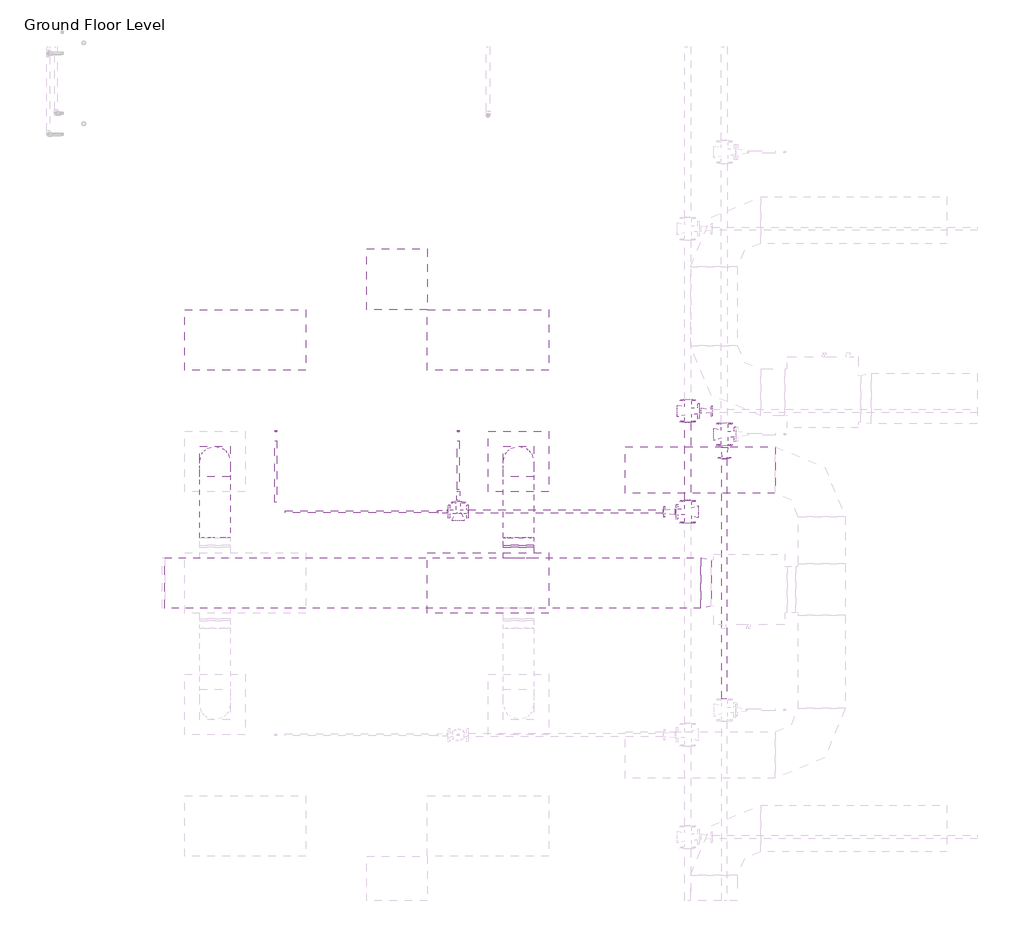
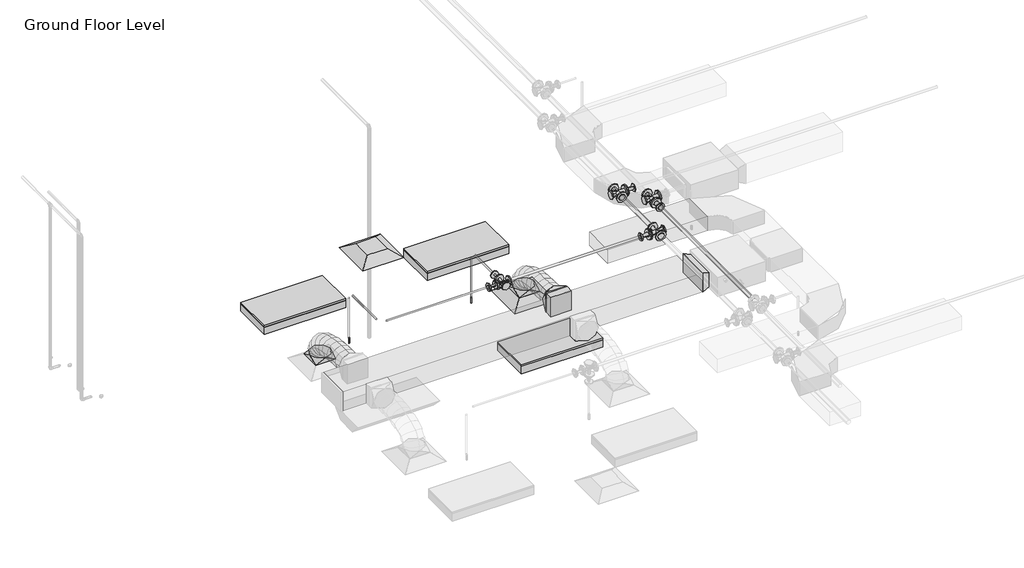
# One storey, part 58 of 68: 9 pipe fittings, 8 pipe segments, 5 duct fittings, 5 duct segments, 3 light fixtures, 2 air terminals, 2 fire suppression terminals.
"""IFC4 building model written with IfcOpenShell, lengths in millimetres."""

from ifc_helpers import new_model, si_unit, point, frame, frame_2d, origin, place, context, project, spatial, polyline, circle_curve, ellipse_curve, trimmed, segment, composite_curve, outline, extrude, transform, mapped, element, save
from ifc_brep_helpers import plane_surface, cylinder_surface, advanced_brep
from components import m_return_diffuser_600_x_600_face_300_x_300_connection_ff221211, m_rectangular_takeoff_standard_2be5eba1, m_rectangular_transition_angle_45_degree_2b595dfe, m_rectangular_to_round_transition_angle_45_degree_641efff0, m_sprinkler_dry_pendent_hosted_15_mm_dry_pendent_9bda8e11, m_troffer_light_parabolic_rectangular1_0600x1200mm_4_lamp_86473d4a, m_reducer_flanged_cs_class_150_standard_ccf252ad, m_reducer_flanged_cs_class_150_standard_3ab32b2b, m_reducer_flanged_cs_class_150_standard_a7631c35, m_tee_round_base_flanged_cs_class_150_standard_dd767e04, m_tee_round_base_flanged_cs_class_150_standard_7e5987a1

model = new_model("IFC4")

# Units and contexts
model_context = context("Model", 3, world=origin())
ifc_project = project(units=[si_unit("LENGTHUNIT", "METRE", prefix="MILLI")], contexts=[model_context])

# Site, building, storey
site = spatial("IfcSite", under=ifc_project)
building = spatial("IfcBuilding", under=site)
storey = spatial("IfcBuildingStorey", under=building, Name="Ground Floor Level", Elevation=900.0)

# Air terminals
placement = place(None, origin())
m_return_diffuser_600_x_600_face_300_x_300_connection_shape = m_return_diffuser_600_x_600_face_300_x_300_connection_ff221211(model_context)
element("IfcAirTerminal", 1, ObjectType="M_Return Diffuser : 600 x 600 Face 300 x 300 Connection", at=placement, inside=storey, context=model_context, shape_type="MappedRepresentation", body=[
    mapped(m_return_diffuser_600_x_600_face_300_x_300_connection_shape, transform((2762.7672395, 7135.2153534, 3650.0), x_axis=(1.0, 0.0, 0.0), y_axis=(0.0, 1.0, 0.0), z_axis=(0.0, 0.0, 1.0))),
])
element("IfcAirTerminal", 2, ObjectType="M_Supply Diffuser : 600 x 600 Face 300 x 300 Connection", at=placement, inside=storey, context=model_context, shape_type="MappedRepresentation", body=[
    mapped(m_return_diffuser_600_x_600_face_300_x_300_connection_shape, transform((3962.7672395, 5335.2153534, 3650.0), x_axis=(1.0, 0.0, 0.0), y_axis=(0.0, 1.0, 0.0), z_axis=(0.0, 0.0, 1.0))),
])

# Duct fittings
m_rectangular_takeoff_standard_shape = m_rectangular_takeoff_standard_2be5eba1(model_context)
element("IfcDuctFitting", 3, ObjectType="M_Rectangular Takeoff : Standard", at=placement, inside=storey, context=model_context, shape_type="MappedRepresentation", body=[
    mapped(m_rectangular_takeoff_standard_shape, transform((3962.7672395, 4385.0199167, 4099.9957478), x_axis=(0.0, 1.0, 0.0), y_axis=(1.0, 0.0, 0.0), z_axis=(0.0, 0.0, -1.0))),
])
m_rectangular_transition_angle_45_degree_shape = m_rectangular_transition_angle_45_degree_2b595dfe(model_context)
element("IfcDuctFitting", 4, ObjectType="M_Rectangular Transition - Angle : 45 Degree", at=placement, inside=storey, context=model_context, shape_type="MappedRepresentation", body=[
    mapped(m_rectangular_transition_angle_45_degree_shape, transform((5868.0139492, 4135.0199167, 4100.0), x_axis=(-1.0, 0.0, 0.0), y_axis=(0.0, -1.0, 0.0), z_axis=(0.0, 0.0, 1.0))),
])
m_rectangular_to_round_transition_angle_45_degree_shape = m_rectangular_to_round_transition_angle_45_degree_641efff0(model_context)
element("IfcDuctFitting", 5, ObjectType="M_Rectangular to Round Transition - Angle : 45 Degree", at=placement, inside=storey, context=model_context, shape_type="MappedRepresentation", body=[
    mapped(m_rectangular_to_round_transition_angle_45_degree_shape, transform((962.7672395, 5335.2153534, 3751.6), x_axis=(0.0, 0.0, 1.0), y_axis=(-1.0, 0.0, 0.0), z_axis=(0.0, -1.0, 0.0))),
])
element("IfcDuctFitting", 6, ObjectType="M_Rectangular to Round Transition - Angle : 45 Degree", at=placement, inside=storey, context=model_context, shape_type="MappedRepresentation", body=[
    mapped(m_rectangular_to_round_transition_angle_45_degree_shape, transform((3962.7672395, 5335.2153534, 3751.6), x_axis=(0.0, 0.0, 1.0), y_axis=(-1.0, 0.0, 0.0), z_axis=(0.0, -1.0, 0.0))),
])
element("IfcDuctFitting", 7, ObjectType="M_Rectangular to Round Transition - Angle : 45 Degree", at=placement, inside=storey, context=model_context, shape_type="MappedRepresentation", body=[
    mapped(m_rectangular_to_round_transition_angle_45_degree_shape, transform((3962.7672395, 4507.8751699, 4099.9957478), x_axis=(0.0, 1.0, 0.0), y_axis=(-1.0, 0.0, 0.0), z_axis=(0.0, 0.0, 1.0))),
])

# Duct segments
element("IfcDuctSegment", 8, ObjectType="Flex - Round", at=placement, inside=storey, context=model_context, shape_type="AdvancedBrep", body=[
    advanced_brep(
    [(1112.7672395, 5335.2153534, 3826.6), (962.7672395, 5185.2153534, 3826.6), (812.7672395, 5335.2153534, 3826.6), (962.7672395, 5485.2153534, 3826.6), (1112.7672395, 5335.2153534, 3857.9381871), (962.7672395, 5185.2153534, 3832.2943835), (812.7672395, 5335.2153534, 3857.9381871), (962.7672395, 5485.2153534, 3883.5819907), (1112.7672395, 5318.1991066, 3906.2507795), (962.7672395, 5184.4618414, 3834.4337577), (812.7672395, 5318.1991066, 3906.2507795), (962.7672395, 5451.9363718, 3978.0678013), (1112.7672395, 5271.0143708, 3968.7107945), (962.7672395, 5166.8104112, 3857.7995469), (812.7672395, 5271.0143708, 3968.7107945), (962.7672395, 5375.2183303, 4079.622042), (1112.7672395, 5199.4571526, 4016.0681304), (962.7672395, 5130.5261535, 3881.8128585), (812.7672395, 5199.4571526, 4016.0681304), (962.7672395, 5268.3881516, 4150.3234022), (1112.7672395, 5109.3234587, 4050.4108726), (962.7672395, 5065.7660366, 3906.4877598), (812.7672395, 5109.3234587, 4050.4108726), (962.7672395, 5152.8808808, 4194.3339853), (1112.7672395, 5006.4092959, 4073.8271066), (962.7672395, 4979.8515391, 3926.0360311), (812.7672395, 5006.4092959, 4073.8271066), (962.7672395, 5032.9670528, 4221.618182), (1112.7672395, 4896.5106709, 4088.4049176), (962.7672395, 4881.3625214, 3939.1003829), (812.7672395, 4896.5106709, 4088.4049176), (962.7672395, 4911.6588205, 4237.7094524), (1112.7672395, 4785.4235904, 4096.2323912), (962.7672395, 4777.9204039, 3946.3891733), (812.7672395, 4785.4235904, 4096.2323912), (962.7672395, 4792.9267769, 4246.0756092), (1112.7672395, 4678.9440611, 4099.3976128), (962.7672395, 4676.2538265, 3949.4113245), (812.7672395, 4678.9440611, 4099.3976128), (962.7672395, 4681.6342958, 4249.383901), (1112.7672395, 4582.8680897, 4099.9886676), (962.7672395, 4583.7908652, 4249.9858292), (812.7672395, 4582.8680897, 4099.9886676), (962.7672395, 4581.9453142, 3949.991506)],
    [
        (0, 1, circle_curve(frame((962.7672395, 5335.2153534, 3826.6), z_axis=(0.0, 0.0, -1.0), x_axis=(1.0, 0.0, 0.0)), 150.0)),
        (1, 2, circle_curve(frame((962.7672395, 5335.2153534, 3826.6), z_axis=(0.0, 0.0, -1.0), x_axis=(1.0, 0.0, 0.0)), 150.0)),
        (2, 3, circle_curve(frame((962.7672395, 5335.2153534, 3826.6), z_axis=(0.0, 0.0, -1.0), x_axis=(1.0, 0.0, 0.0)), 150.0)),
        (3, 0, circle_curve(frame((962.7672395, 5335.2153534, 3826.6), z_axis=(0.0, 0.0, -1.0), x_axis=(1.0, 0.0, 0.0)), 150.0)),
        (0, 4),
        (4, 5, ellipse_curve(frame((962.7672395, 5335.2153534, 3857.9381871), z_axis=(0.0, 0.16851385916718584, -0.9856992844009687), x_axis=(0.0, -0.9856992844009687, -0.16851385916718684)), 152.176229, 150.0)),
        (5, 1),
        (5, 6, ellipse_curve(frame((962.7672395, 5335.2153534, 3857.9381871), z_axis=(0.0, 0.16851385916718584, -0.9856992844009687), x_axis=(0.0, -0.9856992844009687, -0.16851385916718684)), 152.176229, 150.0)),
        (6, 2),
        (6, 7, ellipse_curve(frame((962.7672395, 5335.2153534, 3857.9381871), z_axis=(0.0, 0.16851385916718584, -0.9856992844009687), x_axis=(0.0, -0.9856992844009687, -0.16851385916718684)), 152.176229, 150.0)),
        (7, 3),
        (7, 4, ellipse_curve(frame((962.7672395, 5335.2153534, 3857.9381871), z_axis=(0.0, 0.16851385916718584, -0.9856992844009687), x_axis=(0.0, -0.9856992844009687, -0.16851385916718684)), 152.176229, 150.0)),
        (4, 8),
        (8, 9, ellipse_curve(frame((962.7672395, 5318.1991066, 3906.2507795), z_axis=(0.0, 0.4731018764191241, -0.8810077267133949), x_axis=(0.0, -0.8810077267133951, -0.4731018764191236)), 151.8003318, 150.0)),
        (9, 5),
        (9, 10, ellipse_curve(frame((962.7672395, 5318.1991066, 3906.2507795), z_axis=(0.0, 0.4731018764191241, -0.8810077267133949), x_axis=(0.0, -0.8810077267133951, -0.4731018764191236)), 151.8003318, 150.0)),
        (10, 6),
        (10, 11, ellipse_curve(frame((962.7672395, 5318.1991066, 3906.2507795), z_axis=(0.0, 0.4731018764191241, -0.8810077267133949), x_axis=(0.0, -0.8810077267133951, -0.4731018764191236)), 151.8003318, 150.0)),
        (11, 7),
        (11, 8, ellipse_curve(frame((962.7672395, 5318.1991066, 3906.2507795), z_axis=(0.0, 0.4731018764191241, -0.8810077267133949), x_axis=(0.0, -0.8810077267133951, -0.4731018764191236)), 151.8003318, 150.0)),
        (8, 12),
        (12, 13, ellipse_curve(frame((962.7672395, 5271.0143708, 3968.7107945), z_axis=(0.0, 0.728800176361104, -0.6847264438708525), x_axis=(0.0, -0.6847264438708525, -0.7288001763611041)), 152.1833434, 150.0)),
        (13, 9),
        (13, 14, ellipse_curve(frame((962.7672395, 5271.0143708, 3968.7107945), z_axis=(0.0, 0.728800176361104, -0.6847264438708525), x_axis=(0.0, -0.6847264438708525, -0.7288001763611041)), 152.1833434, 150.0)),
        (14, 10),
        (14, 15, ellipse_curve(frame((962.7672395, 5271.0143708, 3968.7107945), z_axis=(0.0, 0.728800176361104, -0.6847264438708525), x_axis=(0.0, -0.6847264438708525, -0.7288001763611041)), 152.1833434, 150.0)),
        (15, 11),
        (15, 12, ellipse_curve(frame((962.7672395, 5271.0143708, 3968.7107945), z_axis=(0.0, 0.728800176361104, -0.6847264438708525), x_axis=(0.0, -0.6847264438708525, -0.7288001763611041)), 152.1833434, 150.0)),
        (12, 16),
        (16, 17, ellipse_curve(frame((962.7672395, 5199.4571526, 4016.0681304), z_axis=(0.0, 0.8895963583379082, -0.456747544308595), x_axis=(0.0, -0.4567475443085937, -0.8895963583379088)), 150.9170655, 150.0)),
        (17, 13),
        (17, 18, ellipse_curve(frame((962.7672395, 5199.4571526, 4016.0681304), z_axis=(0.0, 0.8895963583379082, -0.456747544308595), x_axis=(0.0, -0.4567475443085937, -0.8895963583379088)), 150.9170655, 150.0)),
        (18, 14),
        (18, 19, ellipse_curve(frame((962.7672395, 5199.4571526, 4016.0681304), z_axis=(0.0, 0.8895963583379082, -0.456747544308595), x_axis=(0.0, -0.4567475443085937, -0.8895963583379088)), 150.9170655, 150.0)),
        (19, 15),
        (19, 16, ellipse_curve(frame((962.7672395, 5199.4571526, 4016.0681304), z_axis=(0.0, 0.8895963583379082, -0.456747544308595), x_axis=(0.0, -0.4567475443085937, -0.8895963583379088)), 150.9170655, 150.0)),
        (16, 20),
        (20, 21, ellipse_curve(frame((962.7672395, 5109.3234587, 4050.4108726), z_axis=(0.0, 0.9571270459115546, -0.2896684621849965), x_axis=(0.0, -0.28966846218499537, -0.957127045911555)), 150.3699152, 150.0)),
        (21, 17),
        (21, 22, ellipse_curve(frame((962.7672395, 5109.3234587, 4050.4108726), z_axis=(0.0, 0.9571270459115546, -0.2896684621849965), x_axis=(0.0, -0.28966846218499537, -0.957127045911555)), 150.3699152, 150.0)),
        (22, 18),
        (22, 23, ellipse_curve(frame((962.7672395, 5109.3234587, 4050.4108726), z_axis=(0.0, 0.9571270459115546, -0.2896684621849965), x_axis=(0.0, -0.28966846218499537, -0.957127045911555)), 150.3699152, 150.0)),
        (23, 19),
        (23, 20, ellipse_curve(frame((962.7672395, 5109.3234587, 4050.4108726), z_axis=(0.0, 0.9571270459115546, -0.2896684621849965), x_axis=(0.0, -0.28966846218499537, -0.957127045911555)), 150.3699152, 150.0)),
        (20, 24),
        (24, 25, ellipse_curve(frame((962.7672395, 5006.4092959, 4073.8271066), z_axis=(0.0, 0.984235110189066, -0.17686505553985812), x_axis=(0.0, -0.17686505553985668, -0.9842351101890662)), 150.1583045, 150.0)),
        (25, 21),
        (25, 26, ellipse_curve(frame((962.7672395, 5006.4092959, 4073.8271066), z_axis=(0.0, 0.984235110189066, -0.17686505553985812), x_axis=(0.0, -0.17686505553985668, -0.9842351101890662)), 150.1583045, 150.0)),
        (26, 22),
        (26, 27, ellipse_curve(frame((962.7672395, 5006.4092959, 4073.8271066), z_axis=(0.0, 0.984235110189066, -0.17686505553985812), x_axis=(0.0, -0.17686505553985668, -0.9842351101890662)), 150.1583045, 150.0)),
        (27, 23),
        (27, 24, ellipse_curve(frame((962.7672395, 5006.4092959, 4073.8271066), z_axis=(0.0, 0.984235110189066, -0.17686505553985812), x_axis=(0.0, -0.17686505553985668, -0.9842351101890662)), 150.1583045, 150.0)),
        (24, 28),
        (28, 29, ellipse_curve(frame((962.7672395, 4896.5106709, 4088.4049176), z_axis=(0.0, 0.9948925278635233, -0.1009398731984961), x_axis=(0.0, -0.10093987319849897, -0.994892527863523)), 150.0710183, 150.0)),
        (29, 25),
        (29, 30, ellipse_curve(frame((962.7672395, 4896.5106709, 4088.4049176), z_axis=(0.0, 0.9948925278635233, -0.1009398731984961), x_axis=(0.0, -0.10093987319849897, -0.994892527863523)), 150.0710183, 150.0)),
        (30, 26),
        (30, 31, ellipse_curve(frame((962.7672395, 4896.5106709, 4088.4049176), z_axis=(0.0, 0.9948925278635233, -0.1009398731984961), x_axis=(0.0, -0.10093987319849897, -0.994892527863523)), 150.0710183, 150.0)),
        (31, 27),
        (31, 28, ellipse_curve(frame((962.7672395, 4896.5106709, 4088.4049176), z_axis=(0.0, 0.9948925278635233, -0.1009398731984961), x_axis=(0.0, -0.10093987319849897, -0.994892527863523)), 150.0710183, 150.0)),
        (28, 32),
        (32, 33, ellipse_curve(frame((962.7672395, 4785.4235904, 4096.2323912), z_axis=(0.0, 0.9987486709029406, -0.05001092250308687), x_axis=(0.0, -0.05001092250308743, -0.9987486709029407)), 150.0309561, 150.0)),
        (33, 29),
        (33, 34, ellipse_curve(frame((962.7672395, 4785.4235904, 4096.2323912), z_axis=(0.0, 0.9987486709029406, -0.05001092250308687), x_axis=(0.0, -0.05001092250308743, -0.9987486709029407)), 150.0309561, 150.0)),
        (34, 30),
        (34, 35, ellipse_curve(frame((962.7672395, 4785.4235904, 4096.2323912), z_axis=(0.0, 0.9987486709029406, -0.05001092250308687), x_axis=(0.0, -0.05001092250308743, -0.9987486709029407)), 150.0309561, 150.0)),
        (35, 31),
        (35, 32, ellipse_curve(frame((962.7672395, 4785.4235904, 4096.2323912), z_axis=(0.0, 0.9987486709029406, -0.05001092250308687), x_axis=(0.0, -0.05001092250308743, -0.9987486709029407)), 150.0309561, 150.0)),
        (32, 36),
        (36, 37, ellipse_curve(frame((962.7672395, 4678.9440611, 4099.3976128), z_axis=(0.0, 0.9998391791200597, -0.017933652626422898), x_axis=(0.0, -0.017933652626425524, -0.9998391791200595)), 150.0104131, 150.0)),
        (37, 33),
        (37, 38, ellipse_curve(frame((962.7672395, 4678.9440611, 4099.3976128), z_axis=(0.0, 0.9998391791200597, -0.017933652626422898), x_axis=(0.0, -0.017933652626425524, -0.9998391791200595)), 150.0104131, 150.0)),
        (38, 34),
        (38, 39, ellipse_curve(frame((962.7672395, 4678.9440611, 4099.3976128), z_axis=(0.0, 0.9998391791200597, -0.017933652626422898), x_axis=(0.0, -0.017933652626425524, -0.9998391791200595)), 150.0104131, 150.0)),
        (39, 35),
        (39, 36, ellipse_curve(frame((962.7672395, 4678.9440611, 4099.3976128), z_axis=(0.0, 0.9998391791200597, -0.017933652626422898), x_axis=(0.0, -0.017933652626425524, -0.9998391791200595)), 150.0104131, 150.0)),
        (40, 41, circle_curve(frame((962.7672395, 4582.8680897, 4099.9886676), z_axis=(0.0, -0.9999810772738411, 0.006151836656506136), x_axis=(1.0, 0.0, 0.0)), 150.0)),
        (41, 42, circle_curve(frame((962.7672395, 4582.8680897, 4099.9886676), z_axis=(0.0, -0.9999810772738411, 0.006151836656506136), x_axis=(1.0, 0.0, 0.0)), 150.0)),
        (42, 43, circle_curve(frame((962.7672395, 4582.8680897, 4099.9886676), z_axis=(0.0, -0.9999810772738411, 0.006151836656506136), x_axis=(1.0, 0.0, 0.0)), 150.0)),
        (43, 40, circle_curve(frame((962.7672395, 4582.8680897, 4099.9886676), z_axis=(0.0, -0.9999810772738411, 0.006151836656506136), x_axis=(1.0, 0.0, 0.0)), 150.0)),
        (36, 40),
        (43, 37),
        (42, 38),
        (41, 39),
    ],
    [
        plane_surface(frame((962.7672395, 5185.2153534, 3826.6), z_axis=(0.0, 0.0, -1.0), x_axis=(1.0, 0.0, 0.0))),
        cylinder_surface(frame((962.7672395, 5335.2153534, 3826.6), z_axis=(0.0, 0.0, -1.0), x_axis=(1.0, 0.0, 0.0)), 150.0),
        cylinder_surface(frame((962.7672395, 5335.2153534, 3857.9381871), z_axis=(0.0, 0.33220798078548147, -0.9432061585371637), x_axis=(1.0, 0.0, 0.0)), 150.0),
        cylinder_surface(frame((962.7672395, 5318.1991066, 3906.2507795), z_axis=(0.0, 0.6027739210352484, -0.7979120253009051), x_axis=(1.0, 0.0, 0.0)), 150.0),
        cylinder_surface(frame((962.7672395, 5271.0143708, 3968.7107945), z_axis=(0.0, 0.8339145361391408, -0.5518936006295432), x_axis=(1.0, 0.0, 0.0)), 150.0),
        cylinder_surface(frame((962.7672395, 5199.4571526, 4016.0681304), z_axis=(0.0, 0.9344667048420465, -0.35605052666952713), x_axis=(1.0, 0.0, 0.0)), 150.0),
        cylinder_surface(frame((962.7672395, 5109.3234587, 4050.4108726), z_axis=(0.0, 0.9750782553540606, -0.2218612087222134), x_axis=(1.0, 0.0, 0.0)), 150.0),
        cylinder_surface(frame((962.7672395, 5006.4092959, 4073.8271066), z_axis=(0.0, 0.9913167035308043, -0.13149598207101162), x_axis=(1.0, 0.0, 0.0)), 150.0),
        cylinder_surface(frame((962.7672395, 4896.5106709, 4088.4049176), z_axis=(0.0, 0.9975267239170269, -0.0702882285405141), x_axis=(1.0, 0.0, 0.0)), 150.0),
        cylinder_surface(frame((962.7672395, 4785.4235904, 4096.2323912), z_axis=(0.0, 0.9995584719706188, -0.029712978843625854), x_axis=(1.0, 0.0, 0.0)), 150.0),
        plane_surface(frame((962.7672395, 4581.9453142, 3949.991506), z_axis=(0.0, -0.9999810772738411, 0.006151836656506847), x_axis=(1.0, 0.0, 0.0))),
        cylinder_surface(frame((962.7672395, 4678.9440611, 4099.3976128), z_axis=(0.0, 0.9999810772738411, -0.006151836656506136), x_axis=(1.0, 0.0, 0.0)), 150.0),
    ],
    [
        (0, [[1, 2, 3, 4]]),
        (1, [[-1, 5, 6, 7]]),
        (1, [[-2, -7, 8, 9]]),
        (1, [[-3, -9, 10, 11]]),
        (1, [[-4, -11, 12, -5]]),
        (2, [[-6, 13, 14, 15]]),
        (2, [[-8, -15, 16, 17]]),
        (2, [[-10, -17, 18, 19]]),
        (2, [[-12, -19, 20, -13]]),
        (3, [[-14, 21, 22, 23]]),
        (3, [[-16, -23, 24, 25]]),
        (3, [[-18, -25, 26, 27]]),
        (3, [[-20, -27, 28, -21]]),
        (4, [[-22, 29, 30, 31]]),
        (4, [[-24, -31, 32, 33]]),
        (4, [[-26, -33, 34, 35]]),
        (4, [[-28, -35, 36, -29]]),
        (5, [[-30, 37, 38, 39]]),
        (5, [[-32, -39, 40, 41]]),
        (5, [[-34, -41, 42, 43]]),
        (5, [[-36, -43, 44, -37]]),
        (6, [[-38, 45, 46, 47]]),
        (6, [[-40, -47, 48, 49]]),
        (6, [[-42, -49, 50, 51]]),
        (6, [[-44, -51, 52, -45]]),
        (7, [[-46, 53, 54, 55]]),
        (7, [[-48, -55, 56, 57]]),
        (7, [[-50, -57, 58, 59]]),
        (7, [[-52, -59, 60, -53]]),
        (8, [[-54, 61, 62, 63]]),
        (8, [[-56, -63, 64, 65]]),
        (8, [[-58, -65, 66, 67]]),
        (8, [[-60, -67, 68, -61]]),
        (9, [[-62, 69, 70, 71]]),
        (9, [[-64, -71, 72, 73]]),
        (9, [[-66, -73, 74, 75]]),
        (9, [[-68, -75, 76, -69]]),
        (10, [[77, 78, 79, 80]]),
        (11, [[-70, 81, -80, 82]]),
        (11, [[-72, -82, -79, 83]]),
        (11, [[-74, -83, -78, 84]]),
        (11, [[-76, -84, -77, -81]]),
    ],
),
])
element("IfcDuctSegment", 9, ObjectType="Flex - Round", at=placement, inside=storey, context=model_context, shape_type="AdvancedBrep", body=[
    advanced_brep(
    [(4112.7672395, 5335.2153534, 3826.6), (3962.7672395, 5185.2153534, 3826.6), (3812.7672395, 5335.2153534, 3826.6), (3962.7672395, 5485.2153534, 3826.6), (4112.7672395, 5335.2153534, 3857.9378899), (3962.7672395, 5185.2153534, 3832.2944495), (3812.7672395, 5335.2153534, 3857.9378899), (3962.7672395, 5485.2153534, 3883.5813304), (4112.7672395, 5318.1993029, 3906.2506504), (3962.7672395, 5184.4615918, 3834.4345644), (3812.7672395, 5318.1993029, 3906.2506504), (3962.7672395, 5451.9370141, 3978.0667363), (4112.7672395, 5271.0151016, 3968.7111185), (3962.7672395, 5166.8099301, 3857.8010943), (3812.7672395, 5271.0151016, 3968.7111185), (3962.7672395, 5375.220273, 4079.6211427), (4112.7672395, 5199.4586743, 4016.0693384), (3962.7672395, 5130.5257656, 3881.8150579), (3812.7672395, 5199.4586743, 4016.0693384), (3962.7672395, 5268.3915831, 4150.3236188), (4112.7672395, 5109.3259463, 4050.413244), (3962.7672395, 5065.7664368, 3906.4907592), (3812.7672395, 5109.3259463, 4050.413244), (3962.7672395, 5152.8854558, 4194.3357287), (4112.7672395, 5006.4128425, 4073.8307693), (3962.7672395, 4979.8531069, 3926.0400441), (3812.7672395, 5006.4128425, 4073.8307693), (3962.7672395, 5032.9725781, 4221.6214946), (4112.7672395, 4896.5152879, 4088.4098484), (3962.7672395, 4881.3654185, 3939.1054831), (3812.7672395, 4896.5152879, 4088.4098484), (3962.7672395, 4911.6651573, 4237.7142137), (4112.7672395, 4785.4292075, 4096.2384151), (3962.7672395, 4777.924683, 3946.3952596), (3812.7672395, 4785.4292075, 4096.2384151), (3962.7672395, 4792.9337321, 4246.0815706), (4112.7672395, 4678.9505265, 4099.4044036), (3962.7672395, 4676.2595056, 3949.4181256), (3812.7672395, 4678.9505265, 4099.4044036), (3962.7672395, 4681.6415474, 4249.3906816), (4112.7672395, 4582.8751699, 4099.9957478), (3962.7672395, 4583.7984029, 4249.9929065), (3812.7672395, 4582.8751699, 4099.9957478), (3962.7672395, 4581.9519368, 3949.998589)],
    [
        (0, 1, circle_curve(frame((3962.7672395, 5335.2153534, 3826.6), z_axis=(0.0, 0.0, -1.0), x_axis=(1.0, 0.0, 0.0)), 150.0)),
        (1, 2, circle_curve(frame((3962.7672395, 5335.2153534, 3826.6), z_axis=(0.0, 0.0, -1.0), x_axis=(1.0, 0.0, 0.0)), 150.0)),
        (2, 3, circle_curve(frame((3962.7672395, 5335.2153534, 3826.6), z_axis=(0.0, 0.0, -1.0), x_axis=(1.0, 0.0, 0.0)), 150.0)),
        (3, 0, circle_curve(frame((3962.7672395, 5335.2153534, 3826.6), z_axis=(0.0, 0.0, -1.0), x_axis=(1.0, 0.0, 0.0)), 150.0)),
        (0, 4),
        (4, 5, ellipse_curve(frame((3962.7672395, 5335.2153534, 3857.9378899), z_axis=(0.0, 0.1685115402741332, -0.9856996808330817), x_axis=(0.0, -0.9856996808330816, -0.16851154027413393)), 152.1761678, 150.0)),
        (5, 1),
        (5, 6, ellipse_curve(frame((3962.7672395, 5335.2153534, 3857.9378899), z_axis=(0.0, 0.1685115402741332, -0.9856996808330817), x_axis=(0.0, -0.9856996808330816, -0.16851154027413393)), 152.1761678, 150.0)),
        (6, 2),
        (6, 7, ellipse_curve(frame((3962.7672395, 5335.2153534, 3857.9378899), z_axis=(0.0, 0.1685115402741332, -0.9856996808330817), x_axis=(0.0, -0.9856996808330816, -0.16851154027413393)), 152.1761678, 150.0)),
        (7, 3),
        (7, 4, ellipse_curve(frame((3962.7672395, 5335.2153534, 3857.9378899), z_axis=(0.0, 0.1685115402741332, -0.9856996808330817), x_axis=(0.0, -0.9856996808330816, -0.16851154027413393)), 152.1761678, 150.0)),
        (4, 8),
        (8, 9, ellipse_curve(frame((3962.7672395, 5318.1993029, 3906.2506504), z_axis=(0.0, 0.47309586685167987, -0.8810109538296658), x_axis=(0.0, -0.8810109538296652, -0.4730958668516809)), 151.8002819, 150.0)),
        (9, 5),
        (9, 10, ellipse_curve(frame((3962.7672395, 5318.1993029, 3906.2506504), z_axis=(0.0, 0.47309586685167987, -0.8810109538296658), x_axis=(0.0, -0.8810109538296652, -0.4730958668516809)), 151.8002819, 150.0)),
        (10, 6),
        (10, 11, ellipse_curve(frame((3962.7672395, 5318.1993029, 3906.2506504), z_axis=(0.0, 0.47309586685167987, -0.8810109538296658), x_axis=(0.0, -0.8810109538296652, -0.4730958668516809)), 151.8002819, 150.0)),
        (11, 7),
        (11, 8, ellipse_curve(frame((3962.7672395, 5318.1993029, 3906.2506504), z_axis=(0.0, 0.47309586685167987, -0.8810109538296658), x_axis=(0.0, -0.8810109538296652, -0.4730958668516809)), 151.8002819, 150.0)),
        (8, 12),
        (12, 13, ellipse_curve(frame((3962.7672395, 5271.0151016, 3968.7111185), z_axis=(0.0, 0.7287924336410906, -0.6847346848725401), x_axis=(0.0, -0.6847346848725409, -0.7287924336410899)), 152.1832817, 150.0)),
        (13, 9),
        (13, 14, ellipse_curve(frame((3962.7672395, 5271.0151016, 3968.7111185), z_axis=(0.0, 0.7287924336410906, -0.6847346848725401), x_axis=(0.0, -0.6847346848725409, -0.7287924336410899)), 152.1832817, 150.0)),
        (14, 10),
        (14, 15, ellipse_curve(frame((3962.7672395, 5271.0151016, 3968.7111185), z_axis=(0.0, 0.7287924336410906, -0.6847346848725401), x_axis=(0.0, -0.6847346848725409, -0.7287924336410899)), 152.1832817, 150.0)),
        (15, 11),
        (15, 12, ellipse_curve(frame((3962.7672395, 5271.0151016, 3968.7111185), z_axis=(0.0, 0.7287924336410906, -0.6847346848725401), x_axis=(0.0, -0.6847346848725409, -0.7287924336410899)), 152.1832817, 150.0)),
        (12, 16),
        (16, 17, ellipse_curve(frame((3962.7672395, 5199.4586743, 4016.0693384), z_axis=(0.0, 0.8895898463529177, -0.45676022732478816), x_axis=(0.0, -0.456760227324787, -0.8895898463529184)), 150.9170558, 150.0)),
        (17, 13),
        (17, 18, ellipse_curve(frame((3962.7672395, 5199.4586743, 4016.0693384), z_axis=(0.0, 0.8895898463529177, -0.45676022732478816), x_axis=(0.0, -0.456760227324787, -0.8895898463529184)), 150.9170558, 150.0)),
        (18, 14),
        (18, 19, ellipse_curve(frame((3962.7672395, 5199.4586743, 4016.0693384), z_axis=(0.0, 0.8895898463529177, -0.45676022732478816), x_axis=(0.0, -0.456760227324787, -0.8895898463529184)), 150.9170558, 150.0)),
        (19, 15),
        (19, 16, ellipse_curve(frame((3962.7672395, 5199.4586743, 4016.0693384), z_axis=(0.0, 0.8895898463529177, -0.45676022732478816), x_axis=(0.0, -0.456760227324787, -0.8895898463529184)), 150.9170558, 150.0)),
        (16, 20),
        (20, 21, ellipse_curve(frame((3962.7672395, 5109.3259463, 4050.413244), z_axis=(0.0, 0.9571228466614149, -0.28968233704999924), x_axis=(0.0, -0.28968233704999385, -0.9571228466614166)), 150.3699188, 150.0)),
        (21, 17),
        (21, 22, ellipse_curve(frame((3962.7672395, 5109.3259463, 4050.413244), z_axis=(0.0, 0.9571228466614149, -0.28968233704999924), x_axis=(0.0, -0.28968233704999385, -0.9571228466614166)), 150.3699188, 150.0)),
        (22, 18),
        (22, 23, ellipse_curve(frame((3962.7672395, 5109.3259463, 4050.413244), z_axis=(0.0, 0.9571228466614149, -0.28968233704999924), x_axis=(0.0, -0.28968233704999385, -0.9571228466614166)), 150.3699188, 150.0)),
        (23, 19),
        (23, 20, ellipse_curve(frame((3962.7672395, 5109.3259463, 4050.413244), z_axis=(0.0, 0.9571228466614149, -0.28968233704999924), x_axis=(0.0, -0.28968233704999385, -0.9571228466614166)), 150.3699188, 150.0)),
        (20, 24),
        (24, 25, ellipse_curve(frame((3962.7672395, 5006.4128425, 4073.8307693), z_axis=(0.0, 0.9842327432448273, -0.17687822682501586), x_axis=(0.0, -0.176878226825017, -0.9842327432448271)), 150.1583099, 150.0)),
        (25, 21),
        (25, 26, ellipse_curve(frame((3962.7672395, 5006.4128425, 4073.8307693), z_axis=(0.0, 0.9842327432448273, -0.17687822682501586), x_axis=(0.0, -0.176878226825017, -0.9842327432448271)), 150.1583099, 150.0)),
        (26, 22),
        (26, 27, ellipse_curve(frame((3962.7672395, 5006.4128425, 4073.8307693), z_axis=(0.0, 0.9842327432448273, -0.17687822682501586), x_axis=(0.0, -0.176878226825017, -0.9842327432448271)), 150.1583099, 150.0)),
        (27, 23),
        (27, 24, ellipse_curve(frame((3962.7672395, 5006.4128425, 4073.8307693), z_axis=(0.0, 0.9842327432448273, -0.17687822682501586), x_axis=(0.0, -0.176878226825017, -0.9842327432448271)), 150.1583099, 150.0)),
        (24, 28),
        (28, 29, ellipse_curve(frame((3962.7672395, 4896.5152879, 4088.4098484), z_axis=(0.0, 0.9948913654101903, -0.10095133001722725), x_axis=(0.0, -0.10095133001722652, -0.9948913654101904)), 150.0710233, 150.0)),
        (29, 25),
        (29, 30, ellipse_curve(frame((3962.7672395, 4896.5152879, 4088.4098484), z_axis=(0.0, 0.9948913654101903, -0.10095133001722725), x_axis=(0.0, -0.10095133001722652, -0.9948913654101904)), 150.0710233, 150.0)),
        (30, 26),
        (30, 31, ellipse_curve(frame((3962.7672395, 4896.5152879, 4088.4098484), z_axis=(0.0, 0.9948913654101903, -0.10095133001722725), x_axis=(0.0, -0.10095133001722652, -0.9948913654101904)), 150.0710233, 150.0)),
        (31, 27),
        (31, 28, ellipse_curve(frame((3962.7672395, 4896.5152879, 4088.4098484), z_axis=(0.0, 0.9948913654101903, -0.10095133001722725), x_axis=(0.0, -0.10095133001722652, -0.9948913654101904)), 150.0710233, 150.0)),
        (28, 32),
        (32, 33, ellipse_curve(frame((3962.7672395, 4785.4292075, 4096.2384151), z_axis=(0.0, 0.9987482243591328, -0.05001983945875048), x_axis=(0.0, -0.05001983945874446, -0.9987482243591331)), 150.0309606, 150.0)),
        (33, 29),
        (33, 34, ellipse_curve(frame((3962.7672395, 4785.4292075, 4096.2384151), z_axis=(0.0, 0.9987482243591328, -0.05001983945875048), x_axis=(0.0, -0.05001983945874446, -0.9987482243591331)), 150.0309606, 150.0)),
        (34, 30),
        (34, 35, ellipse_curve(frame((3962.7672395, 4785.4292075, 4096.2384151), z_axis=(0.0, 0.9987482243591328, -0.05001983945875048), x_axis=(0.0, -0.05001983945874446, -0.9987482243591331)), 150.0309606, 150.0)),
        (35, 31),
        (35, 32, ellipse_curve(frame((3962.7672395, 4785.4292075, 4096.2384151), z_axis=(0.0, 0.9987482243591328, -0.05001983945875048), x_axis=(0.0, -0.05001983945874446, -0.9987482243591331)), 150.0309606, 150.0)),
        (32, 36),
        (36, 37, ellipse_curve(frame((3962.7672395, 4678.9505265, 4099.4044036), z_axis=(0.0, 0.9998390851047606, -0.017938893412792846), x_axis=(0.0, -0.01793889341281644, -0.99983908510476)), 150.0104169, 150.0)),
        (37, 33),
        (37, 38, ellipse_curve(frame((3962.7672395, 4678.9505265, 4099.4044036), z_axis=(0.0, 0.9998390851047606, -0.017938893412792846), x_axis=(0.0, -0.01793889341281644, -0.99983908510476)), 150.0104169, 150.0)),
        (38, 34),
        (38, 39, ellipse_curve(frame((3962.7672395, 4678.9505265, 4099.4044036), z_axis=(0.0, 0.9998390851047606, -0.017938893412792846), x_axis=(0.0, -0.01793889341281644, -0.99983908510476)), 150.0104169, 150.0)),
        (39, 35),
        (39, 36, ellipse_curve(frame((3962.7672395, 4678.9505265, 4099.4044036), z_axis=(0.0, 0.9998390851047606, -0.017938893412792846), x_axis=(0.0, -0.01793889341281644, -0.99983908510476)), 150.0104169, 150.0)),
        (40, 41, circle_curve(frame((3962.7672395, 4582.8751699, 4099.9957478), z_axis=(0.0, -0.9999810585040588, 0.006154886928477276), x_axis=(1.0, 0.0, 0.0)), 150.0)),
        (41, 42, circle_curve(frame((3962.7672395, 4582.8751699, 4099.9957478), z_axis=(0.0, -0.9999810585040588, 0.006154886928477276), x_axis=(1.0, 0.0, 0.0)), 150.0)),
        (42, 43, circle_curve(frame((3962.7672395, 4582.8751699, 4099.9957478), z_axis=(0.0, -0.9999810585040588, 0.006154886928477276), x_axis=(1.0, 0.0, 0.0)), 150.0)),
        (43, 40, circle_curve(frame((3962.7672395, 4582.8751699, 4099.9957478), z_axis=(0.0, -0.9999810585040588, 0.006154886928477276), x_axis=(1.0, 0.0, 0.0)), 150.0)),
        (36, 40),
        (43, 37),
        (42, 38),
        (41, 39),
    ],
    [
        plane_surface(frame((3962.7672395, 5185.2153534, 3826.6), z_axis=(0.0, 0.0, -1.0), x_axis=(1.0, 0.0, 0.0))),
        cylinder_surface(frame((3962.7672395, 5335.2153534, 3826.6), z_axis=(0.0, 0.0, -1.0), x_axis=(1.0, 0.0, 0.0)), 150.0),
        cylinder_surface(frame((3962.7672395, 5335.2153534, 3857.9378899), z_axis=(0.0, 0.3322035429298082, -0.9432077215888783), x_axis=(1.0, 0.0, 0.0)), 150.0),
        cylinder_surface(frame((3962.7672395, 5318.1993029, 3906.2506504), z_axis=(0.0, 0.6027667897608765, -0.797917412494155), x_axis=(1.0, 0.0, 0.0)), 150.0),
        cylinder_surface(frame((3962.7672395, 5271.0151016, 3968.7111185), z_axis=(0.0, 0.8339069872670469, -0.5519050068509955), x_axis=(1.0, 0.0, 0.0)), 150.0),
        cylinder_surface(frame((3962.7672395, 5199.4586743, 4016.0693384), z_axis=(0.0, 0.934461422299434, -0.35606439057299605), x_axis=(1.0, 0.0, 0.0)), 150.0),
        cylinder_surface(frame((3962.7672395, 5109.3259463, 4050.413244), z_axis=(0.0, 0.9750751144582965, -0.22187501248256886), x_axis=(1.0, 0.0, 0.0)), 150.0),
        cylinder_surface(frame((3962.7672395, 5006.4128425, 4073.8307693), z_axis=(0.0, 0.9913150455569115, -0.1315084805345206), x_axis=(1.0, 0.0, 0.0)), 150.0),
        cylinder_surface(frame((3962.7672395, 4896.5152879, 4088.4098484), z_axis=(0.0, 0.997525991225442, -0.07029862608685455), x_axis=(1.0, 0.0, 0.0)), 150.0),
        cylinder_surface(frame((3962.7672395, 4785.4292075, 4096.2384151), z_axis=(0.0, 0.9995582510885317, -0.029720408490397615), x_axis=(1.0, 0.0, 0.0)), 150.0),
        plane_surface(frame((3962.7672395, 4581.9519368, 3949.998589), z_axis=(0.0, -0.9999810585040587, 0.006154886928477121), x_axis=(1.0, 0.0, 0.0))),
        cylinder_surface(frame((3962.7672395, 4678.9505265, 4099.4044036), z_axis=(0.0, 0.9999810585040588, -0.006154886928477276), x_axis=(1.0, 0.0, 0.0)), 150.0),
    ],
    [
        (0, [[1, 2, 3, 4]]),
        (1, [[-1, 5, 6, 7]]),
        (1, [[-2, -7, 8, 9]]),
        (1, [[-3, -9, 10, 11]]),
        (1, [[-4, -11, 12, -5]]),
        (2, [[-6, 13, 14, 15]]),
        (2, [[-8, -15, 16, 17]]),
        (2, [[-10, -17, 18, 19]]),
        (2, [[-12, -19, 20, -13]]),
        (3, [[-14, 21, 22, 23]]),
        (3, [[-16, -23, 24, 25]]),
        (3, [[-18, -25, 26, 27]]),
        (3, [[-20, -27, 28, -21]]),
        (4, [[-22, 29, 30, 31]]),
        (4, [[-24, -31, 32, 33]]),
        (4, [[-26, -33, 34, 35]]),
        (4, [[-28, -35, 36, -29]]),
        (5, [[-30, 37, 38, 39]]),
        (5, [[-32, -39, 40, 41]]),
        (5, [[-34, -41, 42, 43]]),
        (5, [[-36, -43, 44, -37]]),
        (6, [[-38, 45, 46, 47]]),
        (6, [[-40, -47, 48, 49]]),
        (6, [[-42, -49, 50, 51]]),
        (6, [[-44, -51, 52, -45]]),
        (7, [[-46, 53, 54, 55]]),
        (7, [[-48, -55, 56, 57]]),
        (7, [[-50, -57, 58, 59]]),
        (7, [[-52, -59, 60, -53]]),
        (8, [[-54, 61, 62, 63]]),
        (8, [[-56, -63, 64, 65]]),
        (8, [[-58, -65, 66, 67]]),
        (8, [[-60, -67, 68, -61]]),
        (9, [[-62, 69, 70, 71]]),
        (9, [[-64, -71, 72, 73]]),
        (9, [[-66, -73, 74, 75]]),
        (9, [[-68, -75, 76, -69]]),
        (10, [[77, 78, 79, 80]]),
        (11, [[-70, 81, -80, 82]]),
        (11, [[-72, -82, -79, 83]]),
        (11, [[-74, -83, -78, 84]]),
        (11, [[-76, -84, -77, -81]]),
    ],
),
])
element("IfcDuctSegment", 10, ObjectType="Radius Elbows / Taps", at=placement, inside=storey, context=model_context, shape_type="SweptSolid", body=[
    extrude(outline(polyline([(0.0, -500.0), (0.0, 0.0), (5296.5207711, 0.0), (5296.5207711, -500.0), (0.0, -500.0)])), frame((5764.5350744, 3885.0199167, 3950.0), z_axis=(-2.360039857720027e-06, 0.0, 0.9999999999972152), x_axis=(-0.9999999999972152, 0.0, -2.360039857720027e-06)), (0.0, 0.0, 1.0), 300.0),
])
element("IfcDuctSegment", 11, ObjectType="Radius Elbows / Taps", at=placement, inside=storey, context=model_context, shape_type="SweptSolid", body=[
    extrude(outline(polyline([(6496.9389492, 5482.4574167), (6496.9389492, 5020.5824167), (5018.8139492, 5020.5824167), (5018.8139492, 5482.4574167), (6496.9389492, 5482.4574167)])), frame((0.0, 0.0, 3968.1375), z_axis=(0.0, 0.0, 1.0), x_axis=(1.0, 0.0, 0.0)), (0.0, 0.0, 1.0), 214.3),
])
element("IfcDuctSegment", 12, ObjectType="Radius Elbows / Taps", at=placement, inside=storey, context=model_context, shape_type="SweptSolid", body=[
    extrude(outline(polyline([(4112.7672395, 4486.6199167), (3812.7672395, 4486.6199167), (3812.7672395, 4507.8751699), (4112.7672395, 4507.8751699), (4112.7672395, 4486.6199167)])), frame((0.0, 0.0, 3949.9957478), z_axis=(0.0, 0.0, 1.0), x_axis=(1.0, 0.0, 0.0)), (0.0, 0.0, 1.0), 300.0),
])

# Fire suppression terminals
m_sprinkler_dry_pendent_hosted_15_mm_dry_pendent_shape = m_sprinkler_dry_pendent_hosted_15_mm_dry_pendent_9bda8e11(model_context)
element("IfcFireSuppressionTerminal", 13, ObjectType="M_Sprinkler - Dry - Pendent - Hosted : 15 mm Dry Pendent", at=placement, inside=storey, context=model_context, shape_type="MappedRepresentation", body=[
    mapped(m_sprinkler_dry_pendent_hosted_15_mm_dry_pendent_shape, transform((3367.3772563, 5635.2153534, 3650.0), x_axis=(1.0, 0.0, 0.0), y_axis=(0.0, -1.0, 0.0), z_axis=(0.0, 0.0, -1.0))),
])
element("IfcFireSuppressionTerminal", 14, ObjectType="M_Sprinkler - Dry - Pendent - Hosted : 15 mm Dry Pendent", at=placement, inside=storey, context=model_context, shape_type="MappedRepresentation", body=[
    mapped(m_sprinkler_dry_pendent_hosted_15_mm_dry_pendent_shape, transform((1565.5763283, 5635.2153534, 3650.0), x_axis=(1.0, 0.0, 0.0), y_axis=(0.0, -1.0, 0.0), z_axis=(0.0, 0.0, -1.0))),
])

# Light fixtures
m_troffer_light_parabolic_rectangular1_0600x1200mm_4_lamp_shape = m_troffer_light_parabolic_rectangular1_0600x1200mm_4_lamp_86473d4a(model_context)
element("IfcLightFixture", 15, ObjectType="M_Troffer Light - Parabolic Rectangular1 : 0600x1200mm(4 Lamp) - 277V 2", at=placement, inside=storey, context=model_context, shape_type="MappedRepresentation", body=[
    mapped(m_troffer_light_parabolic_rectangular1_0600x1200mm_4_lamp_shape, transform((1281.4707411, 6594.6812855, 3650.0), x_axis=(1.0, 0.0, 0.0), y_axis=(0.0, 1.0, 0.0), z_axis=(0.0, 0.0, 1.0))),
])
element("IfcLightFixture", 16, ObjectType="M_Troffer Light - Parabolic Rectangular1 : 0600x1200mm(4 Lamp) - 277V 2", at=placement, inside=storey, context=model_context, shape_type="MappedRepresentation", body=[
    mapped(m_troffer_light_parabolic_rectangular1_0600x1200mm_4_lamp_shape, transform((3681.4707411, 6594.6812855, 3650.0), x_axis=(1.0, 0.0, 0.0), y_axis=(0.0, 1.0, 0.0), z_axis=(0.0, 0.0, 1.0))),
])
element("IfcLightFixture", 17, ObjectType="M_Troffer Light - Parabolic Rectangular1 : 0600x1200mm(4 Lamp) - 277V 2", at=placement, inside=storey, context=model_context, shape_type="MappedRepresentation", body=[
    mapped(m_troffer_light_parabolic_rectangular1_0600x1200mm_4_lamp_shape, transform((3681.4707411, 4194.6812855, 3650.0), x_axis=(1.0, 0.0, 0.0), y_axis=(0.0, 1.0, 0.0), z_axis=(0.0, 0.0, 1.0))),
])

# Pipe fittings
m_reducer_flanged_cs_class_150_standard_shape = m_reducer_flanged_cs_class_150_standard_ccf252ad(model_context)
element("IfcPipeFitting", 18, ObjectType="M_Reducer - Flanged - CS - Class 150 : Standard", at=placement, inside=storey, context=model_context, shape_type="MappedRepresentation", body=[
    mapped(m_reducer_flanged_cs_class_150_standard_shape, transform((3367.3772563, 4940.578485, 4360.0), x_axis=(0.0, 1.0, 0.0), y_axis=(-1.0, 0.0, 0.0), z_axis=(0.0, 0.0, 1.0))),
])
element("IfcPipeFitting", 19, ObjectType="M_Reducer - Flanged - CS - Class 150 : Standard", at=placement, inside=storey, context=model_context, shape_type="MappedRepresentation", body=[
    mapped(m_reducer_flanged_cs_class_150_standard_shape, transform((3266.6686625, 4839.8698912, 4360.0), x_axis=(-1.0, 0.0, 0.0), y_axis=(0.0, -1.0, 0.0), z_axis=(0.0, 0.0, 1.0))),
])
m_reducer_flanged_cs_class_150_standard_2_shape = m_reducer_flanged_cs_class_150_standard_3ab32b2b(model_context)
element("IfcPipeFitting", 20, ObjectType="M_Reducer - Flanged - CS - Class 150 : Standard", at=placement, inside=storey, context=model_context, shape_type="MappedRepresentation", body=[
    mapped(m_reducer_flanged_cs_class_150_standard_2_shape, transform((5997.057812, 5491.2153637, 4291.0695218), x_axis=(0.0, -1.0, 0.0), y_axis=(1.0, 0.0, 0.0), z_axis=(0.0, 0.0, 1.0))),
])
m_reducer_flanged_cs_class_150_standard_3_shape = m_reducer_flanged_cs_class_150_standard_a7631c35(model_context)
element("IfcPipeFitting", 21, ObjectType="M_Reducer - Flanged - CS - Class 150 : Standard", at=placement, inside=storey, context=model_context, shape_type="MappedRepresentation", body=[
    mapped(m_reducer_flanged_cs_class_150_standard_3_shape, transform((5749.869498, 5835.2153534, 4360.0), x_axis=(1.0, 0.0, 0.0), y_axis=(0.0, 0.0, 1.0), z_axis=(0.0, -1.0, 0.0))),
])
element("IfcPipeFitting", 22, ObjectType="M_Reducer - Flanged - CS - Class 150 : Standard", at=placement, inside=storey, context=model_context, shape_type="MappedRepresentation", body=[
    mapped(m_reducer_flanged_cs_class_150_standard_3_shape, transform((5521.869498, 4839.8698912, 4360.0), x_axis=(-1.0, 0.0, 0.0), y_axis=(0.0, -1.0, 0.0), z_axis=(0.0, 0.0, 1.0))),
])
m_tee_round_base_flanged_cs_class_150_standard_shape = m_tee_round_base_flanged_cs_class_150_standard_dd767e04(model_context)
element("IfcPipeFitting", 23, ObjectType="M_Tee Round Base - Flanged - CS - Class 150 : Standard", at=placement, inside=storey, context=model_context, shape_type="MappedRepresentation", body=[
    mapped(m_tee_round_base_flanged_cs_class_150_standard_shape, transform((5997.057812, 5605.2153637, 4291.0695218), x_axis=(0.0, 1.0, 0.0), y_axis=(-1.0, 0.0, 0.0), z_axis=(0.0, 0.0, 1.0))),
])
element("IfcPipeFitting", 24, ObjectType="M_Tee Round Base - Flanged - CS - Class 150 : Standard", at=placement, inside=storey, context=model_context, shape_type="MappedRepresentation", body=[
    mapped(m_tee_round_base_flanged_cs_class_150_standard_shape, transform((5635.869498, 5835.2153534, 4360.0), x_axis=(0.0, 1.0, 0.0), y_axis=(-1.0, 0.0, 0.0), z_axis=(0.0, 0.0, 1.0))),
])
element("IfcPipeFitting", 25, ObjectType="M_Tee Round Base - Flanged - CS - Class 150 : Standard", at=placement, inside=storey, context=model_context, shape_type="MappedRepresentation", body=[
    mapped(m_tee_round_base_flanged_cs_class_150_standard_shape, transform((5635.869498, 4839.8698912, 4360.0), x_axis=(0.0, 1.0, 0.0), y_axis=(1.0, 0.0, 0.0), z_axis=(0.0, 0.0, -1.0))),
])
m_tee_round_base_flanged_cs_class_150_standard_2_shape = m_tee_round_base_flanged_cs_class_150_standard_7e5987a1(model_context)
element("IfcPipeFitting", 26, ObjectType="M_Tee Round Base - Flanged - CS - Class 150 : Standard", at=placement, inside=storey, context=model_context, shape_type="MappedRepresentation", body=[
    mapped(m_tee_round_base_flanged_cs_class_150_standard_2_shape, transform((3367.3772563, 4839.8698912, 4360.0), x_axis=(1.0, 0.0, 0.0), y_axis=(0.0, -1.0, 0.0), z_axis=(0.0, 0.0, -1.0))),
])

# Pipe segments
element("IfcPipeSegment", 27, ObjectType="Steel flanged", at=placement, inside=storey, context=model_context, shape_type="SweptSolid", body=[
    extrude(outline(composite_curve([segment(trimmed(circle_curve(frame_2d((0.0, 24.13)), 24.13), [point((0.0, 0.0))], [point((-24.13, 24.13))], False, "CARTESIAN"), True, "CONTINUOUS"), segment(trimmed(circle_curve(frame_2d((0.0, 24.13)), 24.13), [point((-24.13, 24.13))], [point((0.0, 48.26))], False, "CARTESIAN"), True, "CONTINUOUS"), segment(trimmed(circle_curve(frame_2d((0.0, 24.13)), 24.13), [point((0.0, 48.26))], [point((24.13, 24.13))], False, "CARTESIAN"), True, "CONTINUOUS"), segment(trimmed(circle_curve(frame_2d((0.0, 24.13)), 24.13), [point((24.13, 24.13))], [point((0.0, 0.0))], False, "CARTESIAN"), True, "CONTINUOUS")], self_intersect=False)), frame((5972.927812, 5364.2153637, 4291.0695218), z_axis=(0.0, -0.9999999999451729, 1.0471597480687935e-05), x_axis=(0.0, -1.0471597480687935e-05, -0.9999999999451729)), (0.0, 0.0, 1.0), 2370.4433135),
])
element("IfcPipeSegment", 28, ObjectType="Steel flanged", at=placement, inside=storey, context=model_context, shape_type="SweptSolid", body=[
    extrude(outline(composite_curve([segment(trimmed(circle_curve(frame_2d((4360.0, 5635.869498)), 30.1625), [point((4360.0, 5605.706998))], [point((4329.8375, 5635.869498))], False, "CARTESIAN"), True, "CONTINUOUS"), segment(trimmed(circle_curve(frame_2d((4360.0, 5635.869498)), 30.1625), [point((4329.8375, 5635.869498))], [point((4360.0, 5666.031998))], False, "CARTESIAN"), True, "CONTINUOUS"), segment(trimmed(circle_curve(frame_2d((4360.0, 5635.869498)), 30.1625), [point((4360.0, 5666.031998))], [point((4390.1625, 5635.869498))], False, "CARTESIAN"), True, "CONTINUOUS"), segment(trimmed(circle_curve(frame_2d((4360.0, 5635.869498)), 30.1625), [point((4390.1625, 5635.869498))], [point((4360.0, 5605.706998))], False, "CARTESIAN"), True, "CONTINUOUS")], self_intersect=False)), frame((0.0, 4953.8698912, 0.0), z_axis=(0.0, 1.0, 0.0), x_axis=(0.0, 0.0, 1.0)), (0.0, 0.0, 1.0), 767.3454622),
])
element("IfcPipeSegment", 29, ObjectType="Steel flanged", at=placement, inside=storey, context=model_context, shape_type="SweptSolid", body=[
    extrude(outline(composite_curve([segment(trimmed(circle_curve(frame_2d((1565.5763283, 5635.2153534)), 10.668), [point((1554.9083283, 5635.2153534))], [point((1565.5763283, 5645.8833534))], False, "CARTESIAN"), True, "CONTINUOUS"), segment(trimmed(circle_curve(frame_2d((1565.5763283, 5635.2153534)), 10.668), [point((1565.5763283, 5645.8833534))], [point((1576.2443283, 5635.2153534))], False, "CARTESIAN"), True, "CONTINUOUS"), segment(trimmed(circle_curve(frame_2d((1565.5763283, 5635.2153534)), 10.668), [point((1576.2443283, 5635.2153534))], [point((1565.5763283, 5624.5473534))], False, "CARTESIAN"), True, "CONTINUOUS"), segment(trimmed(circle_curve(frame_2d((1565.5763283, 5635.2153534)), 10.668), [point((1565.5763283, 5624.5473534))], [point((1554.9083283, 5635.2153534))], False, "CARTESIAN"), True, "CONTINUOUS")], self_intersect=False)), frame((0.0, 0.0, 3650.0), z_axis=(0.0, 0.0, 1.0), x_axis=(1.0, 0.0, 0.0)), (0.0, 0.0, 1.0), 616.9914063),
])
element("IfcPipeSegment", 30, ObjectType="Steel flanged", at=placement, inside=storey, context=model_context, shape_type="SweptSolid", body=[
    extrude(outline(composite_curve([segment(trimmed(circle_curve(frame_2d((4360.0, 1565.5763283)), 10.668), [point((4360.0, 1554.9083283))], [point((4349.332, 1565.5763283))], False, "CARTESIAN"), True, "CONTINUOUS"), segment(trimmed(circle_curve(frame_2d((4360.0, 1565.5763283)), 10.668), [point((4349.332, 1565.5763283))], [point((4360.0, 1576.2443283))], False, "CARTESIAN"), True, "CONTINUOUS"), segment(trimmed(circle_curve(frame_2d((4360.0, 1565.5763283)), 10.668), [point((4360.0, 1576.2443283))], [point((4370.668, 1565.5763283))], False, "CARTESIAN"), True, "CONTINUOUS"), segment(trimmed(circle_curve(frame_2d((4360.0, 1565.5763283)), 10.668), [point((4370.668, 1565.5763283))], [point((4360.0, 1554.9083283))], False, "CARTESIAN"), True, "CONTINUOUS")], self_intersect=False)), frame((0.0, 4932.878485, 0.0), z_axis=(0.0, 1.0, 0.0), x_axis=(0.0, 0.0, 1.0)), (0.0, 0.0, 1.0), 609.3282747),
])
element("IfcPipeSegment", 31, ObjectType="Steel flanged", at=placement, inside=storey, context=model_context, shape_type="SweptSolid", body=[
    extrude(outline(composite_curve([segment(trimmed(circle_curve(frame_2d((3367.3772563, 5635.2153534)), 10.668), [point((3356.7092563, 5635.2153534))], [point((3367.3772563, 5645.8833534))], False, "CARTESIAN"), True, "CONTINUOUS"), segment(trimmed(circle_curve(frame_2d((3367.3772563, 5635.2153534)), 10.668), [point((3367.3772563, 5645.8833534))], [point((3378.0452563, 5635.2153534))], False, "CARTESIAN"), True, "CONTINUOUS"), segment(trimmed(circle_curve(frame_2d((3367.3772563, 5635.2153534)), 10.668), [point((3378.0452563, 5635.2153534))], [point((3367.3772563, 5624.5473534))], False, "CARTESIAN"), True, "CONTINUOUS"), segment(trimmed(circle_curve(frame_2d((3367.3772563, 5635.2153534)), 10.668), [point((3367.3772563, 5624.5473534))], [point((3356.7092563, 5635.2153534))], False, "CARTESIAN"), True, "CONTINUOUS")], self_intersect=False)), frame((0.0, 0.0, 3650.0), z_axis=(0.0, 0.0, 1.0), x_axis=(1.0, 0.0, 0.0)), (0.0, 0.0, 1.0), 616.9914063),
])
element("IfcPipeSegment", 32, ObjectType="Steel flanged", at=placement, inside=storey, context=model_context, shape_type="SweptSolid", body=[
    extrude(outline(composite_curve([segment(trimmed(circle_curve(frame_2d((4360.0, 3367.3772563)), 10.668), [point((4360.0, 3356.7092563))], [point((4349.332, 3367.3772563))], False, "CARTESIAN"), True, "CONTINUOUS"), segment(trimmed(circle_curve(frame_2d((4360.0, 3367.3772563)), 10.668), [point((4349.332, 3367.3772563))], [point((4360.0, 3378.0452563))], False, "CARTESIAN"), True, "CONTINUOUS"), segment(trimmed(circle_curve(frame_2d((4360.0, 3367.3772563)), 10.668), [point((4360.0, 3378.0452563))], [point((4370.668, 3367.3772563))], False, "CARTESIAN"), True, "CONTINUOUS"), segment(trimmed(circle_curve(frame_2d((4360.0, 3367.3772563)), 10.668), [point((4370.668, 3367.3772563))], [point((4360.0, 3356.7092563))], False, "CARTESIAN"), True, "CONTINUOUS")], self_intersect=False)), frame((0.0, 5054.578485, 0.0), z_axis=(0.0, 1.0, 0.0), x_axis=(0.0, 0.0, 1.0)), (0.0, 0.0, 1.0), 487.6282747),
])
element("IfcPipeSegment", 33, ObjectType="Steel flanged", at=placement, inside=storey, context=model_context, shape_type="SweptSolid", body=[
    extrude(outline(composite_curve([segment(trimmed(circle_curve(frame_2d((4839.8698912, 4360.0)), 10.668), [point((4850.5378912, 4360.0))], [point((4839.8698912, 4349.332))], False, "CARTESIAN"), True, "CONTINUOUS"), segment(trimmed(circle_curve(frame_2d((4839.8698912, 4360.0)), 10.668), [point((4839.8698912, 4349.332))], [point((4829.2018912, 4360.0))], False, "CARTESIAN"), True, "CONTINUOUS"), segment(trimmed(circle_curve(frame_2d((4839.8698912, 4360.0)), 10.668), [point((4829.2018912, 4360.0))], [point((4839.8698912, 4370.668))], False, "CARTESIAN"), True, "CONTINUOUS"), segment(trimmed(circle_curve(frame_2d((4839.8698912, 4360.0)), 10.668), [point((4839.8698912, 4370.668))], [point((4850.5378912, 4360.0))], False, "CARTESIAN"), True, "CONTINUOUS")], self_intersect=False)), frame((1658.584922, 0.0, 0.0), z_axis=(1.0, 0.0, 0.0), x_axis=(0.0, 1.0, 0.0)), (0.0, 0.0, 1.0), 1494.0837405),
])
element("IfcPipeSegment", 34, ObjectType="Steel flanged", at=placement, inside=storey, context=model_context, shape_type="SweptSolid", body=[
    extrude(outline(composite_curve([segment(trimmed(circle_curve(frame_2d((4839.8698912, 4360.0)), 16.7005), [point((4856.5703912, 4360.0))], [point((4839.8698912, 4343.2995))], False, "CARTESIAN"), True, "CONTINUOUS"), segment(trimmed(circle_curve(frame_2d((4839.8698912, 4360.0)), 16.7005), [point((4839.8698912, 4343.2995))], [point((4823.1693912, 4360.0))], False, "CARTESIAN"), True, "CONTINUOUS"), segment(trimmed(circle_curve(frame_2d((4839.8698912, 4360.0)), 16.7005), [point((4823.1693912, 4360.0))], [point((4839.8698912, 4376.7005))], False, "CARTESIAN"), True, "CONTINUOUS"), segment(trimmed(circle_curve(frame_2d((4839.8698912, 4360.0)), 16.7005), [point((4839.8698912, 4376.7005))], [point((4856.5703912, 4360.0))], False, "CARTESIAN"), True, "CONTINUOUS")], self_intersect=False)), frame((3468.08585, 0.0, 0.0), z_axis=(1.0, 0.0, 0.0), x_axis=(0.0, 1.0, 0.0)), (0.0, 0.0, 1.0), 1926.783648),
])

save(model, "model.ifc")
